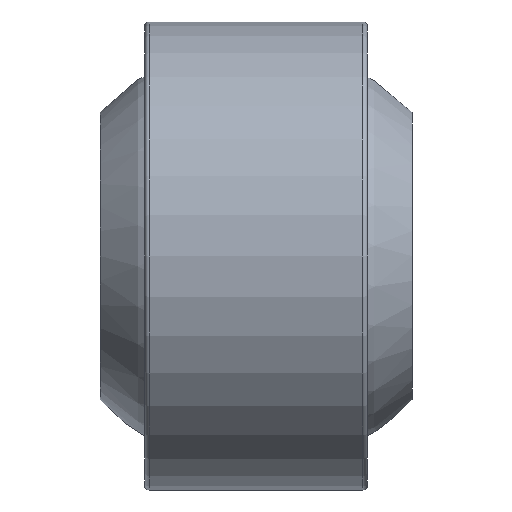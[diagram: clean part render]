
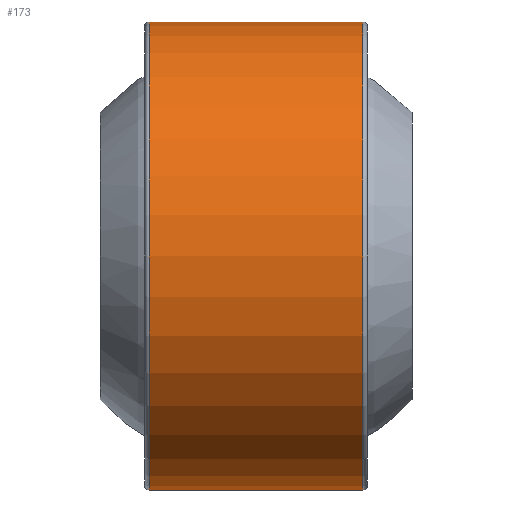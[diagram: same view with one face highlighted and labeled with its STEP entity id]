
A CAD part, front view. The second image highlights one B-rep face of the part: STEP entity #173.
In plain terms, the highlighted cylindrical face has radius 21 mm (diameter 42 mm), a full revolution.
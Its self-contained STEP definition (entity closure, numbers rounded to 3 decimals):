
#173 = ADVANCED_FACE( '', ( #193, #194 ), #195, .T. );
#193 = FACE_OUTER_BOUND( '', #224, .T. );
#194 = FACE_OUTER_BOUND( '', #225, .T. );
#195 = CYLINDRICAL_SURFACE( '', #226, 21. );
#224 = EDGE_LOOP( '', ( #262 ) );
#225 = EDGE_LOOP( '', ( #263 ) );
#226 = AXIS2_PLACEMENT_3D( '', #264, #265, #266 );
#262 = ORIENTED_EDGE( '', *, *, #297, .T. );
#263 = ORIENTED_EDGE( '', *, *, #296, .F. );
#264 = CARTESIAN_POINT( '', ( 10., 0., 0. ) );
#265 = DIRECTION( '', ( -1., 0., 0. ) );
#266 = DIRECTION( '', ( 0., 0., -1. ) );
#296 = EDGE_CURVE( '', #310, #310, #311, .T. );
#297 = EDGE_CURVE( '', #312, #312, #313, .T. );
#310 = VERTEX_POINT( '', #330 );
#311 = CIRCLE( '', #331, 21. );
#312 = VERTEX_POINT( '', #332 );
#313 = CIRCLE( '', #333, 21. );
#330 = CARTESIAN_POINT( '', ( 9.6, 0., -21. ) );
#331 = AXIS2_PLACEMENT_3D( '', #354, #355, #356 );
#332 = CARTESIAN_POINT( '', ( -9.6, 0., -21. ) );
#333 = AXIS2_PLACEMENT_3D( '', #357, #358, #359 );
#354 = CARTESIAN_POINT( '', ( 9.6, 0., 0. ) );
#355 = DIRECTION( '', ( 1., 0., 0. ) );
#356 = DIRECTION( '', ( 0., 0., -1. ) );
#357 = CARTESIAN_POINT( '', ( -9.6, 0., 0. ) );
#358 = DIRECTION( '', ( 1., 0., 0. ) );
#359 = DIRECTION( '', ( 0., 0., -1. ) );
